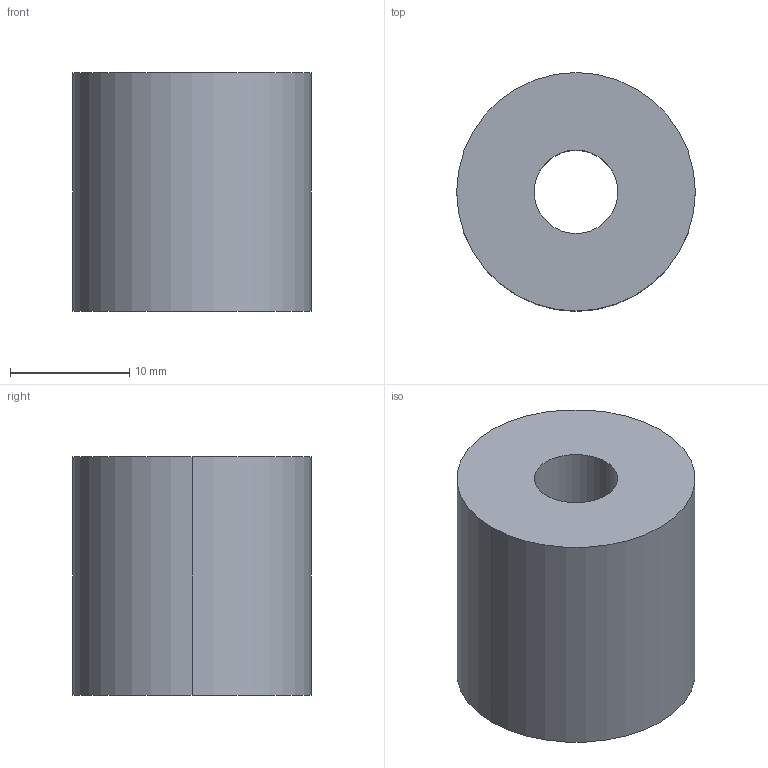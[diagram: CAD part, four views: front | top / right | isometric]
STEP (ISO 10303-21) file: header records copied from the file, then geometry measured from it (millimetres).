
FILE_DESCRIPTION(('STEP AP214'),'1');
FILE_NAME('E:/DISEGNI/LIBRERIE_3D/COMPONENTI/COMPONENTS_STEP/302_82797.stp','2016-03-30T15:43:01',(' '),(' '),'Spatial InterOp 3D',' ',' ');
FILE_SCHEMA(('automotive_design'));
Length unit declared in the file: metre
Products named in the file (1): 1
Bounding box: 20 x 20 x 20 mm (x, y, z)
Volume: 5513.5 mm3; surface area: 2247.8 mm2
Topology: 1 solids, 1 shells, 6 faces, 12 edges, 8 vertices
Faces by surface type: cylinder 4, plane 2
Entity records: 241 total; most frequent: DIRECTION 34, CARTESIAN_POINT 27, ORIENTED_EDGE 24, AXIS2_PLACEMENT_3D 15, EDGE_CURVE 12, EDGE_LOOP 8, VERTEX_POINT 8, CIRCLE 8
